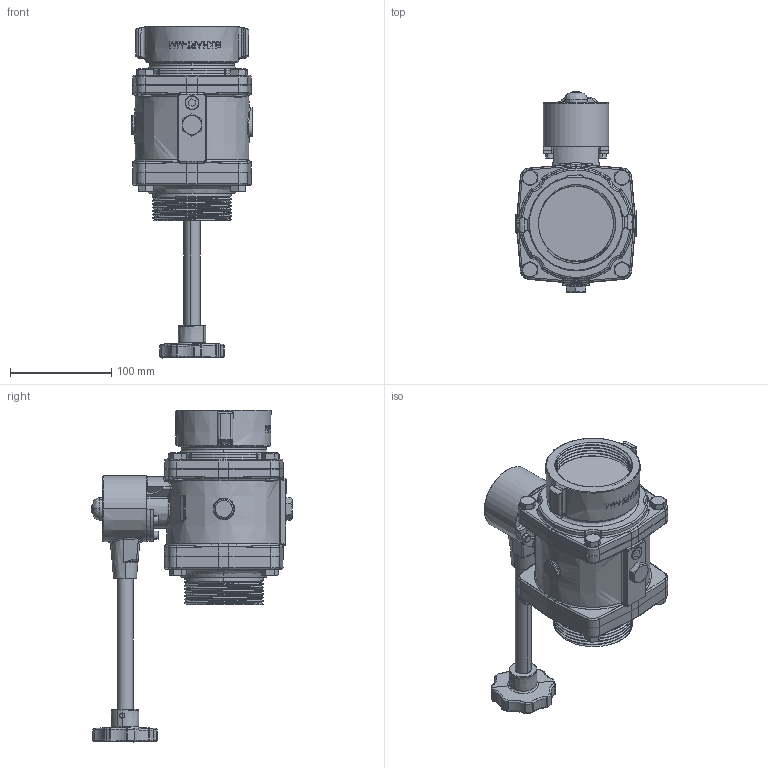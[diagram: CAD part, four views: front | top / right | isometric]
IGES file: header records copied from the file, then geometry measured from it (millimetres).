
Start section: SolidWorks IGES file using analytic representation for surfaces
Global section: file name: C:\Users\bgerig\Desktop\QP001083\02859002.IGS; native system: SolidWorks 2013; preprocessor: SolidWorks 2013; author: bgerig; date: 140522.104431; units: inch
Bounding box: 119.06 x 197.68 x 327.77 mm (x, y, z)
Surface area: 150959.9 mm2 (no closed solid volume)
Topology: 0 solids, 0 shells, 1012 faces, 12332 edges, 12267 vertices
Faces by surface type: bspline 571, revolution 441
